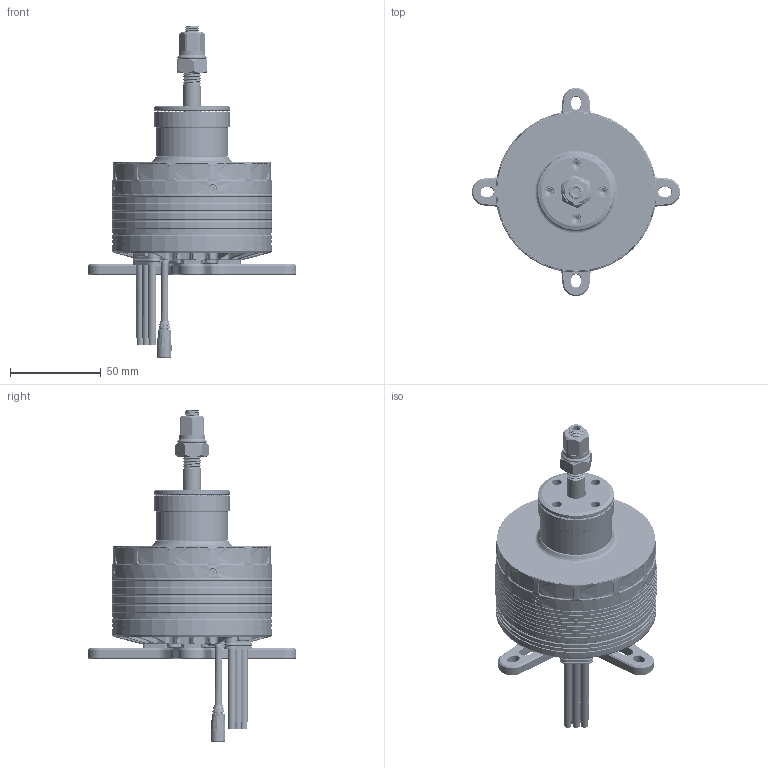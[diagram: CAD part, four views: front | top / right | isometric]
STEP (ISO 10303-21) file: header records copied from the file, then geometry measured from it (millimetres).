
FILE_DESCRIPTION (( 'STEP AP214' ), '1' );
FILE_NAME ('HW-T8020-180KV&210KV-3D-勤俋-20250920.STEP', '2025-09-20T03:46:35', ( '' ), ( '' ), 'SwSTEP 2.0', 'SolidWorks 2021', '' );
FILE_SCHEMA (( 'AUTOMOTIVE_DESIGN' ));
Length unit declared in the file: millimetre
Products named in the file (1): HW-T8020-180KV&210KV-3D-勤俋-20250920
Bounding box: 114.94 x 115 x 183.18 mm (x, y, z)
Volume: 367582.8 mm3; surface area: 72980.4 mm2
Topology: 14 solids, 17 shells, 5660 faces, 14627 edges, 9195 vertices
Faces by surface type: plane 2411, cylinder 1937, bspline 836, cone 443, torus 33
Entity records: 333452 total; most frequent: CARTESIAN_POINT 143520, ORIENTED_EDGE 29214, DIRECTION 24286, EDGE_CURVE 14607, VERTEX_POINT 9195, AXIS2_PLACEMENT_3D 8658, LINE 6970, VECTOR 6970
